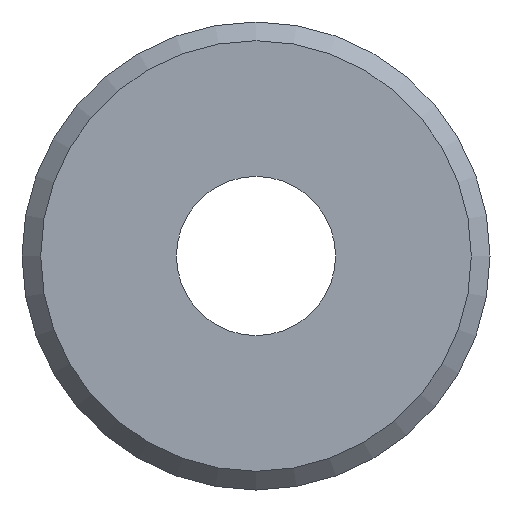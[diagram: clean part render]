
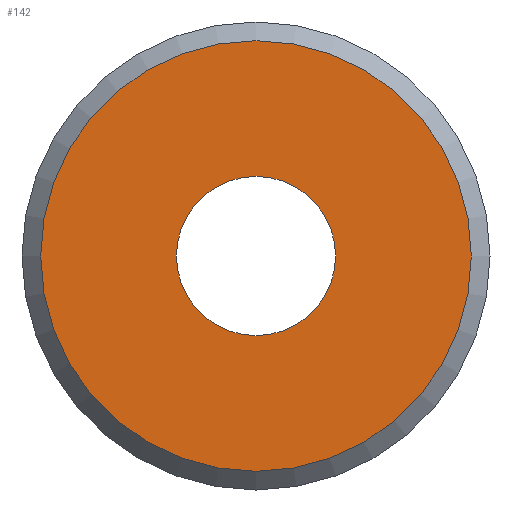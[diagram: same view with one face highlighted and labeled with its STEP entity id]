
A CAD part, front view. The second image highlights one B-rep face of the part: STEP entity #142.
In plain terms, the highlighted planar face has unit normal (0, -1, 0).
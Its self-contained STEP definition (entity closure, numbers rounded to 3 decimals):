
#15=FACE_BOUND('',#35,.T.);
#18=PLANE('',#175);
#26=FACE_OUTER_BOUND('',#34,.T.);
#34=EDGE_LOOP('',(#111));
#35=EDGE_LOOP('',(#112,#113));
#55=CIRCLE('',#171,11.5);
#58=CIRCLE('',#176,4.25);
#59=CIRCLE('',#177,4.25);
#69=VERTEX_POINT('',#247);
#72=VERTEX_POINT('',#257);
#73=VERTEX_POINT('',#258);
#84=EDGE_CURVE('',#69,#69,#55,.T.);
#88=EDGE_CURVE('',#72,#73,#58,.T.);
#89=EDGE_CURVE('',#73,#72,#59,.T.);
#111=ORIENTED_EDGE('',*,*,#84,.F.);
#112=ORIENTED_EDGE('',*,*,#88,.T.);
#113=ORIENTED_EDGE('',*,*,#89,.T.);
#142=ADVANCED_FACE('',(#26,#15),#18,.T.);
#171=AXIS2_PLACEMENT_3D('',#249,#199,#200);
#175=AXIS2_PLACEMENT_3D('',#256,#208,#209);
#176=AXIS2_PLACEMENT_3D('',#259,#210,#211);
#177=AXIS2_PLACEMENT_3D('',#260,#212,#213);
#199=DIRECTION('center_axis',(0.,1.,0.));
#200=DIRECTION('ref_axis',(1.,0.,0.));
#208=DIRECTION('center_axis',(0.,-1.,0.));
#209=DIRECTION('ref_axis',(0.,0.,-1.));
#210=DIRECTION('center_axis',(0.,1.,0.));
#211=DIRECTION('ref_axis',(1.,0.,0.));
#212=DIRECTION('center_axis',(0.,1.,0.));
#213=DIRECTION('ref_axis',(1.,0.,0.));
#247=CARTESIAN_POINT('',(-11.5,-40.,0.));
#249=CARTESIAN_POINT('Origin',(0.,-40.,0.));
#256=CARTESIAN_POINT('Origin',(-12.5,-40.,0.));
#257=CARTESIAN_POINT('',(-4.25,-40.,0.));
#258=CARTESIAN_POINT('',(4.25,-40.,0.));
#259=CARTESIAN_POINT('Origin',(0.,-40.,0.));
#260=CARTESIAN_POINT('Origin',(0.,-40.,0.));
